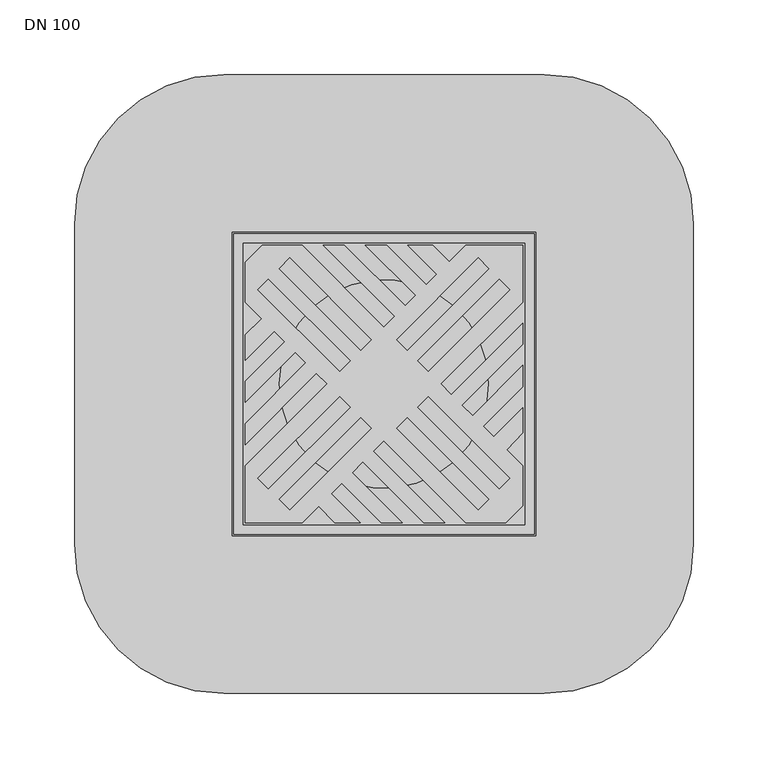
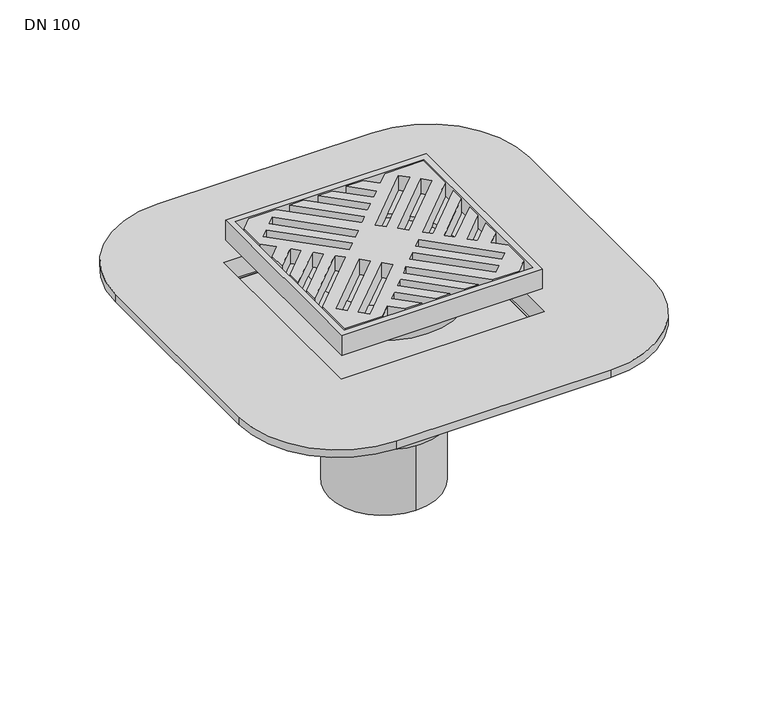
"""IFC4 building model written with IfcOpenShell, lengths in millimetres: sanitary terminal geometry, PF_GEN_UN_parkdeck gully Passavant_ACO : DN 100."""

import ifcopenshell
import ifcopenshell.guid

model = None  # the IFC model being written
_history = None  # IfcOwnerHistory: only IFC2X3 demands one
_inside = {}  # id of a spatial element -> (the spatial element, [elements in it])
_under = {}  # id of a project, library or spatial element -> (it, [spatial elements below it])
_declared = {}  # id of a project -> (the project, [libraries it declares])
_typed = {}  # id of a type object -> (the type object, [elements of that type])
_made_of = {}  # id of a material, layer set ... -> (it, [elements and type objects made of it])


def new_model(schema):
    """Start an empty IFC model of exactly this schema.

    Asked for "IFC4X3", IfcOpenShell would pick the latest addendum, in which some entities
    have other attributes; the version numbers below select the first issue.
    IFC2X3 requires an IfcOwnerHistory on every rooted entity: one is made here for all.
    """
    global model, _history
    if schema == "IFC4X3":
        model = ifcopenshell.file(schema_version=(4, 3, 0, 0))
    else:
        model = ifcopenshell.file(schema=schema)
    _inside.clear()
    _under.clear()
    _declared.clear()
    _typed.clear()
    _made_of.clear()
    _history = None
    if model.schema == "IFC2X3":
        org = make("IfcOrganization", Name="unknown")
        user = make(
            "IfcPersonAndOrganization",
            ThePerson=make("IfcPerson", FamilyName="unknown"),
            TheOrganization=org,
        )
        app = make(
            "IfcApplication",
            ApplicationDeveloper=org,
            Version="unknown",
            ApplicationFullName="unknown",
            ApplicationIdentifier="unknown",
        )
        _history = make(
            "IfcOwnerHistory",
            OwningUser=user,
            OwningApplication=app,
            ChangeAction="ADDED",
            CreationDate=0,
        )
    return model


def make(cls, **values):
    """One entity of the class cls with the attributes given. An attribute that is None is left unset."""
    return model.create_entity(
        cls, **{name: value for name, value in values.items() if value is not None}
    )


def rooted(cls, **values):
    """An entity with a GlobalId (a new one), such as an element, a storey or a relation."""
    return make(cls, GlobalId=ifcopenshell.guid.new(), OwnerHistory=_history, **values)


def si_unit(unit_type, name, prefix=None):
    """IfcSIUnit, for example si_unit("LENGTHUNIT", "METRE", prefix="MILLI")."""
    return make("IfcSIUnit", UnitType=unit_type, Prefix=prefix, Name=name)


def assignment(units):
    """IfcUnitAssignment: the units of a project."""
    return None if units is None else make("IfcUnitAssignment", Units=units)


def point(xyz):
    """IfcCartesianPoint."""
    return None if xyz is None else make("IfcCartesianPoint", Coordinates=xyz)


def direction(xyz):
    """IfcDirection."""
    return None if xyz is None else make("IfcDirection", DirectionRatios=xyz)


def frame(location, z_axis=None, x_axis=None):
    """IfcAxis2Placement3D, a coordinate frame: its origin and axes. An axis left out is left unset."""
    return make(
        "IfcAxis2Placement3D",
        Location=point(location),
        Axis=direction(z_axis),
        RefDirection=direction(x_axis),
    )


def origin():
    """The frame at (0, 0, 0) with its axes left unset."""
    return frame((0.0, 0.0, 0.0))


def place(relative_to, where):
    """IfcLocalPlacement: puts the frame where relative to a parent placement (None: the world)."""
    return make(
        "IfcLocalPlacement", PlacementRelTo=relative_to, RelativePlacement=where
    )


def context(
    kind, dimensions, precision=None, world=None, true_north=None, identifier=None
):
    """IfcGeometricRepresentationContext, for example the 3D "Model" context."""
    return make(
        "IfcGeometricRepresentationContext",
        ContextIdentifier=identifier,
        ContextType=kind,
        CoordinateSpaceDimension=dimensions,
        Precision=precision,
        WorldCoordinateSystem=world,
        TrueNorth=true_north,
    )


def project(units=None, contexts=None):
    """IfcProject with its units and contexts."""
    return rooted(
        "IfcProject",
        Name="project",
        RepresentationContexts=contexts,
        UnitsInContext=assignment(units),
    )


def spatial(cls, under=None, at=None, **own):
    """A site, building, storey or space (cls), placed at a placement, below another one or the project."""
    s = rooted(cls, ObjectPlacement=at, **own)
    if under is not None:
        _under.setdefault(under.id(), (under, []))[1].append(s)
    return s


def polyline(points):
    """IfcPolyline through the points."""
    return make("IfcPolyline", Points=[point(p) for p in points])


def circle_curve(where, radius):
    """IfcCircle in the frame where."""
    return make("IfcCircle", Position=where, Radius=radius)


def outline(outer, holes=None, kind="AREA"):
    """IfcArbitraryClosedProfileDef: a profile drawn as a closed curve; with holes, ...WithVoids."""
    if holes is None:
        return make("IfcArbitraryClosedProfileDef", ProfileType=kind, OuterCurve=outer)
    return make(
        "IfcArbitraryProfileDefWithVoids",
        ProfileType=kind,
        OuterCurve=outer,
        InnerCurves=holes,
    )


def extrude(swept, where, along, depth):
    """IfcExtrudedAreaSolid: the profile swept, set in the frame where, extruded along a direction by depth."""
    return make(
        "IfcExtrudedAreaSolid",
        SweptArea=swept,
        Position=where,
        ExtrudedDirection=direction(along),
        Depth=depth,
    )


def faces_of(points, faces, orient=None, outer=None):
    """IfcFace entities. A face is a list of loops; a loop is a list of indices into points, from 0.

    orient and outer hold one flag for each loop. By default every Orientation is true, the
    first loop of a face is its IfcFaceOuterBound and the others are IfcFaceBound.
    """
    made = []
    for i, loops in enumerate(faces):
        bounds = []
        for j, loop in enumerate(loops):
            is_outer = j == 0 if outer is None else outer[i][j]
            bounds.append(
                make(
                    "IfcFaceOuterBound" if is_outer else "IfcFaceBound",
                    Bound=make("IfcPolyLoop", Polygon=[points[k] for k in loop]),
                    Orientation=True if orient is None else orient[i][j],
                )
            )
        made.append(make("IfcFace", Bounds=bounds))
    return made


def faceted_brep(points, faces, orient=None, outer=None, voids=None):
    """IfcFacetedBrep: a solid bounded by flat faces; with voids (closed shells), ...WithVoids."""
    shared = [point(p) for p in points]
    hull = make("IfcClosedShell", CfsFaces=faces_of(shared, faces, orient, outer))
    if voids is None:
        return make("IfcFacetedBrep", Outer=hull)
    return make(
        "IfcFacetedBrepWithVoids",
        Outer=hull,
        Voids=[
            make(cls, CfsFaces=faces_of(shared, fs, o, b)) for cls, fs, o, b in voids
        ],
    )


def shape(context_of_items, identifier, shape_type, items):
    """IfcShapeRepresentation: the items that make up one representation, for example the "Body"."""
    return make(
        "IfcShapeRepresentation",
        ContextOfItems=context_of_items,
        RepresentationIdentifier=identifier,
        RepresentationType=shape_type,
        Items=items,
    )


def source(mapping_origin, context_of_items, identifier, shape_type, items):
    """IfcRepresentationMap: a shape defined once, which mapped items show again and again."""
    return make(
        "IfcRepresentationMap",
        MappingOrigin=mapping_origin,
        MappedRepresentation=shape(context_of_items, identifier, shape_type, items),
    )


def transform(
    local_origin,
    x_axis=None,
    y_axis=None,
    z_axis=None,
    scale=None,
    scale2=None,
    scale3=None,
    uniform=True,
):
    """IfcCartesianTransformationOperator3D, or its non-uniform kind. x_axis, y_axis, z_axis: its Axis1, 2, 3."""
    if uniform:
        return make(
            "IfcCartesianTransformationOperator3D",
            Axis1=direction(x_axis),
            Axis2=direction(y_axis),
            LocalOrigin=point(local_origin),
            Scale=scale,
            Axis3=direction(z_axis),
        )
    return make(
        "IfcCartesianTransformationOperator3DnonUniform",
        Axis1=direction(x_axis),
        Axis2=direction(y_axis),
        LocalOrigin=point(local_origin),
        Scale=scale,
        Axis3=direction(z_axis),
        Scale2=scale2,
        Scale3=scale3,
    )


def mapped(mapping_source, mapping_target):
    """IfcMappedItem: shows the shape of a source again, moved by a transform."""
    return make(
        "IfcMappedItem", MappingSource=mapping_source, MappingTarget=mapping_target
    )


def made_of(thing, what):
    """Note that an element or type object is made of a material, layer set ...; save() writes the relation."""
    if what is not None:
        _made_of.setdefault(what.id(), (what, []))[1].append(thing)
    return thing


def element(
    cls,
    number,
    at=None,
    inside=None,
    cuts=None,
    type_object=None,
    material=None,
    context=None,
    identifier="Body",
    shape_type=None,
    held_by="IfcProductDefinitionShape",
    body=None,
    shapes=None,
    **own,
):
    """One element of the class cls, such as IfcWall. Its Tag is "e" and its number.

    at: its placement. inside: the storey or other place that contains it. cuts: it is an
    opening in that element (IfcRelVoidsElement). A single representation is given by context,
    identifier, shape_type and body (its items); several are given by shapes. held_by: the class
    of the entity that holds the representations. save() writes the other relations.
    """
    e = rooted(cls, Tag="e%d" % number, ObjectPlacement=at, **own)
    if body is not None:
        shapes = [shape(context, identifier, shape_type, body)]
    if shapes is not None:
        e.Representation = make(held_by, Representations=shapes)
    if inside is not None:
        _inside.setdefault(inside.id(), (inside, []))[1].append(e)
    if cuts is not None:
        rooted(
            "IfcRelVoidsElement", RelatingBuildingElement=cuts, RelatedOpeningElement=e
        )
    if type_object is not None:
        _typed.setdefault(type_object.id(), (type_object, []))[1].append(e)
    return made_of(e, material)


def aggregate(whole, parts):
    """IfcRelAggregates: a whole, such as a stair, and the parts it consists of."""
    return rooted("IfcRelAggregates", RelatingObject=whole, RelatedObjects=parts)


def save(model, path):
    """Write the relations noted so far, then the file.

    IfcRelAggregates (storeys below a building ...), IfcRelContainedInSpatialStructure (elements
    in a storey), IfcRelDefinesByType, IfcRelAssociatesMaterial and IfcRelDeclares: one each for
    every whole, place, type object, material and project.
    """
    for whole, parts in _under.values():
        aggregate(whole, parts)
    for where, things in _inside.values():
        rooted(
            "IfcRelContainedInSpatialStructure",
            RelatedElements=things,
            RelatingStructure=where,
        )
    for kind, things in _typed.values():
        rooted("IfcRelDefinesByType", RelatedObjects=things, RelatingType=kind)
    for what, things in _made_of.values():
        rooted("IfcRelAssociatesMaterial", RelatedObjects=things, RelatingMaterial=what)
    for by, libraries in _declared.values():
        rooted("IfcRelDeclares", RelatingContext=by, RelatedDefinitions=libraries)
    model.write(path)


def plane_surface(at):
    """IfcPlane: the flat surface through the origin of the frame at, square to its z axis."""
    return make("IfcPlane", Position=at)


def cylinder_surface(at, radius):
    """IfcCylindricalSurface: all points at the distance radius from the z axis of the frame at."""
    return make("IfcCylindricalSurface", Position=at, Radius=radius)


def revolved_surface(curve, axis_point, axis_direction):
    """IfcSurfaceOfRevolution: the curve turned about the line through axis_point along axis_direction."""
    return make(
        "IfcSurfaceOfRevolution",
        SweptCurve=make("IfcArbitraryOpenProfileDef", ProfileType="CURVE", Curve=curve),
        AxisPosition=make("IfcAxis1Placement", Location=point(axis_point), Axis=direction(axis_direction)),
    )


def advanced_brep(points, edges, surfaces, faces):
    """IfcAdvancedBrep: a solid bounded by faces that lie on surfaces and meet in shared edges.

    An edge is (start, end): straight between two places in points (the first is 0);
    or (start, end, curve); or (start, end, curve, False) where it runs against its curve.
    A face is (place in surfaces, loops), or (place, loops, False) where it looks against
    its surface's normal. A loop lists edges by number (the first is 1), with a minus sign
    where the edge is run from its end to its start. The first loop is the outer one.
    """
    corners = [point(p) for p in points]
    vertices = [make("IfcVertexPoint", VertexGeometry=c) for c in corners]
    made = []
    for start, end, *more in edges:
        made.append(
            make(
                "IfcEdgeCurve",
                EdgeStart=vertices[start],
                EdgeEnd=vertices[end],
                EdgeGeometry=more[0] if more else make("IfcPolyline", Points=[corners[start], corners[end]]),
                SameSense=more[1] if len(more) > 1 else True,
            )
        )
    hull = []
    for where, loops, *sense in faces:
        bounds = []
        for j, loop in enumerate(loops):
            ring = [make("IfcOrientedEdge", EdgeElement=made[abs(k) - 1], Orientation=k > 0) for k in loop]
            bounds.append(
                make(
                    "IfcFaceOuterBound" if j == 0 else "IfcFaceBound",
                    Bound=make("IfcEdgeLoop", EdgeList=ring),
                    Orientation=True,
                )
            )
        hull.append(make("IfcAdvancedFace", Bounds=bounds, FaceSurface=surfaces[where], SameSense=sense[0] if sense else True))
    return make("IfcAdvancedBrep", Outer=make("IfcClosedShell", CfsFaces=hull))


def dn_100_48bf5f62(model_context):
    return source(origin(), model_context, "Body", "SolidModel", [
        faceted_brep([(84.95, 84.95, -21.0), (-84.95, 84.95, -21.0), (-84.95, -84.95, -21.0), (84.95, -84.95, -21.0), (78.7, 78.7, -29.0), (78.7, -78.7, -29.0), (-78.7, -78.7, -29.0), (-78.7, 78.7, -29.0)], [[[0, 1, 2, 3]], [[4, 5, 6, 7]], [[4, 7, 1, 0]], [[7, 6, 2, 1]], [[6, 5, 3, 2]], [[5, 4, 0, 3]]]),
        advanced_brep(
        [(-75.1, 0.0, -49.0), (75.1, 0.0, -49.0), (-75.1, 0.0, -29.0), (75.1, 0.0, -29.0)],
        [
            (0, 1, circle_curve(frame((0.0, 0.0, -49.0), z_axis=(0.0, 0.0, -1.0), x_axis=(1.0, 0.0, 0.0)), 75.1)),
            (1, 0, circle_curve(frame((0.0, 0.0, -49.0), z_axis=(0.0, 0.0, -1.0), x_axis=(1.0, 0.0, 0.0)), 75.1)),
            (2, 3, circle_curve(frame((0.0, 0.0, -29.0), z_axis=(0.0, 0.0, 1.0), x_axis=(1.0, 0.0, 0.0)), 75.1)),
            (3, 2, circle_curve(frame((0.0, 0.0, -29.0), z_axis=(0.0, 0.0, 1.0), x_axis=(1.0, 0.0, 0.0)), 75.1)),
            (1, 3),
            (2, 0),
        ],
        [
            plane_surface(frame((75.1, 0.0, -49.0), z_axis=(0.0, 0.0, -1.0), x_axis=(0.0, -1.0, 0.0))),
            plane_surface(frame((75.1, 0.0, -29.0), z_axis=(0.0, 0.0, 1.0), x_axis=(0.0, 1.0, 0.0))),
            cylinder_surface(frame((0.0, 0.0, -49.0), z_axis=(0.0, 0.0, 1.0), x_axis=(1.0, 0.0, 0.0)), 75.1),
        ],
        [
            (0, [[1, 2]]),
            (1, [[3, 4]]),
            (2, [[-2, 5, -3, 6]]),
            (2, [[-1, -6, -4, -5]]),
        ],
    ),
        advanced_brep(
        [(100.75, 100.75, -21.0), (100.75, -100.75, -21.0), (-100.75, -100.75, -21.0), (-100.75, 100.75, -21.0), (-70.1, 0.0, -21.0), (70.1, 0.0, -21.0), (94.5, -94.5, -16.0), (94.5, 94.5, -16.0), (-94.5, 94.5, -16.0), (-94.5, -94.5, -16.0), (-70.1, 0.0, -16.0), (70.1, 0.0, -16.0), (100.75, 100.75, 0.0), (-100.75, 100.75, 0.0), (-100.75, -100.75, 0.0), (100.75, -100.75, 0.0), (94.5, 94.5, 0.0), (94.5, -94.5, 0.0), (-94.5, -94.5, 0.0), (-94.5, 94.5, 0.0)],
        [
            (0, 1),
            (1, 2),
            (2, 3),
            (3, 0),
            (4, 5, circle_curve(frame((0.0, 0.0, -21.0), z_axis=(0.0, 0.0, 1.0), x_axis=(1.0, 0.0, 0.0)), 70.1)),
            (5, 4, circle_curve(frame((0.0, 0.0, -21.0), z_axis=(0.0, 0.0, 1.0), x_axis=(1.0, 0.0, 0.0)), 70.1)),
            (6, 7),
            (7, 8),
            (8, 9),
            (9, 6),
            (10, 11, circle_curve(frame((0.0, 0.0, -16.0), z_axis=(0.0, 0.0, -1.0), x_axis=(1.0, 0.0, 0.0)), 70.1)),
            (11, 10, circle_curve(frame((0.0, 0.0, -16.0), z_axis=(0.0, 0.0, -1.0), x_axis=(1.0, 0.0, 0.0)), 70.1)),
            (5, 11),
            (10, 4),
            (12, 13),
            (13, 14),
            (14, 15),
            (15, 12),
            (16, 17),
            (17, 18),
            (18, 19),
            (19, 16),
            (3, 13),
            (12, 0),
            (2, 14),
            (1, 15),
            (16, 7),
            (6, 17),
            (9, 18),
            (8, 19),
        ],
        [
            plane_surface(frame((-94.5, 94.5, -21.0), z_axis=(0.0, 0.0, -1.0), x_axis=(1.0, 0.0, 0.0))),
            plane_surface(frame((-94.5, 94.5, -16.0), z_axis=(0.0, 0.0, 1.0), x_axis=(-1.0, 0.0, 0.0))),
            revolved_surface(polyline([(70.1, 0.0, -21.0), (70.1, 0.0, -16.0)]), (0.0, 0.0, -29.0), (0.0, 0.0, -1.0)),
            plane_surface(frame((-100.75, 100.75, 0.0), z_axis=(0.0, 0.0, 1.0), x_axis=(-1.0, 0.0, 0.0))),
            plane_surface(frame((100.75, 100.75, 0.0), z_axis=(0.0, 1.0, 0.0), x_axis=(0.0, 0.0, -1.0))),
            plane_surface(frame((-100.75, 100.75, 0.0), z_axis=(-1.0, 0.0, 0.0), x_axis=(0.0, 0.0, -1.0))),
            plane_surface(frame((-100.75, -100.75, 0.0), z_axis=(0.0, -1.0, 0.0), x_axis=(0.0, 0.0, -1.0))),
            plane_surface(frame((100.75, -100.75, 0.0), z_axis=(1.0, 0.0, 0.0), x_axis=(0.0, 0.0, -1.0))),
            plane_surface(frame((94.5, 94.5, 0.0), z_axis=(-1.0, 0.0, 0.0), x_axis=(0.0, 0.0, -1.0))),
            plane_surface(frame((94.5, -94.5, 0.0), z_axis=(0.0, 1.0, 0.0), x_axis=(0.0, 0.0, -1.0))),
            plane_surface(frame((-94.5, -94.5, 0.0), z_axis=(1.0, 0.0, 0.0), x_axis=(0.0, 0.0, -1.0))),
            plane_surface(frame((-94.5, 94.5, 0.0), z_axis=(0.0, -1.0, 0.0), x_axis=(0.0, 0.0, -1.0))),
        ],
        [
            (0, [[1, 2, 3, 4], [5, 6]]),
            (1, [[7, 8, 9, 10], [11, 12]]),
            (2, [[-6, 13, -11, 14]]),
            (2, [[-5, -14, -12, -13]]),
            (3, [[15, 16, 17, 18], [19, 20, 21, 22]]),
            (4, [[-4, 23, -15, 24]]),
            (5, [[-3, 25, -16, -23]]),
            (6, [[-2, 26, -17, -25]]),
            (7, [[-1, -24, -18, -26]]),
            (8, [[-19, 27, -7, 28]]),
            (9, [[-20, -28, -10, 29]]),
            (10, [[-21, -29, -9, 30]]),
            (11, [[-22, -30, -8, -27]]),
        ],
    ),
        extrude(outline(polyline([(-93.0166638, -40.6740982), (-93.0166638, -26.5319626), (-52.3425656, 14.1421356), (-59.4136335, 21.2132034), (-93.0166638, -12.3898269), (-93.0166638, 1.7523087), (-66.4847013, 28.2842712), (-73.5557691, 35.3553391), (-93.0166638, 15.8944443), (-93.0166638, 32.8650071), (-82.0410505, 43.8406204), (-93.0166638, 54.8162338), (-93.0166638, 81.7029553), (-81.7029553, 93.0166638), (-54.8328977, 93.0166638), (0.0, 38.1837662), (7.0710678, 45.254834), (-40.690762, 93.0166638), (-26.5486264, 93.0166638), (14.1421356, 52.3259018), (21.2132034, 59.3969696), (-12.3898269, 93.0), (1.7523087, 93.0), (28.2842712, 66.4680374), (35.3553391, 73.5391052), (15.8944443, 93.0), (32.8650071, 93.0), (43.8406204, 82.0243866), (54.8162338, 93.0), (93.0, 93.0), (93.0, 54.8162338), (38.1837662, 0.0), (45.254834, -7.0710678), (93.0, 40.6740982), (93.0, 26.5319626), (52.3259018, -14.1421356), (59.3969696, -21.2132034), (93.0, 12.3898269), (93.0, -1.7523087), (66.4680374, -28.2842712), (73.5391052, -35.3553391), (93.0, -15.8944443), (93.0, -32.6426597), (82.3093846, -44.1256185), (93.0, -54.8353654), (93.0, -81.7029553), (81.6862915, -93.0166638), (54.8162338, -93.0166638), (0.0, -38.20043), (-7.0710678, -45.2714978), (40.6740982, -93.0166638), (26.5319626, -93.0166638), (-14.1587995, -52.3259018), (-21.2298673, -59.3969696), (12.3898269, -93.0166638), (-1.7523087, -93.0166638), (-28.3009351, -66.4680374), (-35.3720029, -73.5391052), (-15.8944443, -93.0166638), (-32.8816709, -93.0166638), (-43.8572843, -82.0410505), (-54.8328977, -93.0166638), (-93.0166638, -93.0166638), (-93.0166638, -54.8162338), (-38.20043, 0.0), (-45.2714978, 7.0710678), (-93.0166638, -40.6740982)]), holes=[polyline([(22.627417, 15.5563492), (29.6984848, 8.4852814), (84.4992604, 63.2860569), (77.4281925, 70.3571247), (22.627417, 15.5563492)]), polyline([(63.2860569, 84.4992604), (8.4852814, 29.6984848), (15.5563492, 22.627417), (70.3571247, 77.4281925), (63.2860569, 84.4992604)]), polyline([(-22.6440808, -15.5538815), (-29.7151487, -8.4852814), (-84.5159242, -63.3051885), (-77.4448564, -70.3737886), (-22.6440808, -15.5538815)]), polyline([(-63.3027208, -84.5159242), (-8.5019452, -29.7151487), (-15.573013, -22.6440808), (-70.3737886, -77.4448564), (-63.3027208, -84.5159242)]), polyline([(-84.5159242, 63.2860569), (-29.7151487, 8.4852814), (-22.6440808, 15.5563492), (-77.4448564, 70.3571247), (-84.5159242, 63.2860569)]), polyline([(-15.573013, 22.627417), (-8.5019452, 29.6984848), (-63.3027208, 84.4992604), (-70.3737886, 77.4281925), (-15.573013, 22.627417)]), polyline([(84.4992604, -63.3051885), (29.6984848, -8.4852814), (22.627417, -15.5538815), (77.4281925, -70.3737886), (84.4992604, -63.3051885)]), polyline([(15.5563492, -22.6440808), (8.4852814, -29.7151487), (63.2860569, -84.5159242), (70.3571247, -77.4448564), (15.5563492, -22.6440808)])]), frame((0.0, 0.0, -16.0), z_axis=(0.0, 0.0, 1.0), x_axis=(1.0, 0.0, 0.0)), (0.0, 0.0, 1.0), 16.0),
        advanced_brep(
        [(91.5703282, -91.5703282, -99.0), (77.4281925, -77.4281925, -99.0), (93.3380951, -93.3380951, -74.0), (75.6604256, -75.6604256, -74.0)],
        [
            (0, 1, circle_curve(frame((84.4992604, -84.4992604, -99.0), z_axis=(0.0, 0.0, -1.0), x_axis=(0.7071067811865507, -0.7071067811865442, 0.0)), 10.0)),
            (1, 0, circle_curve(frame((84.4992604, -84.4992604, -99.0), z_axis=(0.0, 0.0, -1.0), x_axis=(-0.7071067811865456, 0.7071067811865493, 0.0)), 10.0)),
            (2, 3, circle_curve(frame((84.4992604, -84.4992604, -74.0), z_axis=(0.0, 0.0, 1.0), x_axis=(-0.7071067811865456, 0.7071067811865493, 0.0)), 12.5)),
            (3, 2, circle_curve(frame((84.4992604, -84.4992604, -74.0), z_axis=(0.0, 0.0, 1.0), x_axis=(0.7071067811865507, -0.7071067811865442, 0.0)), 12.5)),
            (3, 1),
            (0, 2),
        ],
        [
            plane_surface(frame((84.4992604, -84.4992604, -99.0), z_axis=(0.0, 0.0, -1.0), x_axis=(-0.7071067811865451, -0.7071067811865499, 0.0))),
            plane_surface(frame((84.4992604, -84.4992604, -74.0), z_axis=(0.0, 0.0, 1.0), x_axis=(-0.7071067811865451, -0.7071067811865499, 0.0))),
            revolved_surface(polyline([(91.57032816, -91.57032816, -99.0), (93.3380951, -93.3380951, -74.0)]), (84.4992604, -84.4992604, -199.0), (0.0, 0.0, 1.0)),
            revolved_surface(polyline([(77.42819256, -77.42819256, -99.0), (75.6604256, -75.6604256, -74.0)]), (84.4992604, -84.4992604, -199.0), (0.0, 0.0, 1.0)),
        ],
        [
            (0, [[1, 2]]),
            (1, [[3, 4]]),
            (2, [[-4, 5, -1, 6]]),
            (3, [[-3, -6, -2, -5]]),
        ],
    ),
        advanced_brep(
        [(-91.5703282, -91.5703282, -99.0), (-77.4281925, -77.4281925, -99.0), (-93.3380951, -93.3380951, -74.0), (-75.6604256, -75.6604256, -74.0)],
        [
            (0, 1, circle_curve(frame((-84.4992604, -84.4992604, -99.0), z_axis=(0.0, 0.0, -1.0), x_axis=(-0.7071067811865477, -0.7071067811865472, 0.0)), 10.0)),
            (1, 0, circle_curve(frame((-84.4992604, -84.4992604, -99.0), z_axis=(0.0, 0.0, -1.0), x_axis=(0.7071067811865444, 0.7071067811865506, 0.0)), 10.0)),
            (2, 3, circle_curve(frame((-84.4992604, -84.4992604, -74.0), z_axis=(0.0, 0.0, 1.0), x_axis=(0.7071067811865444, 0.7071067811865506, 0.0)), 12.5)),
            (3, 2, circle_curve(frame((-84.4992604, -84.4992604, -74.0), z_axis=(0.0, 0.0, 1.0), x_axis=(-0.7071067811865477, -0.7071067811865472, 0.0)), 12.5)),
            (3, 1),
            (0, 2),
        ],
        [
            plane_surface(frame((-84.4992604, -84.4992604, -99.0), z_axis=(0.0, 0.0, -1.0), x_axis=(-0.7071067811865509, 0.7071067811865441, 0.0))),
            plane_surface(frame((-84.4992604, -84.4992604, -74.0), z_axis=(0.0, 0.0, 1.0), x_axis=(-0.7071067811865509, 0.7071067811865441, 0.0))),
            revolved_surface(polyline([(-91.57032816, -91.57032816, -99.0), (-93.3380951, -93.3380951, -74.0)]), (-84.4992604, -84.4992604, -199.0), (0.0, 0.0, 1.0)),
            revolved_surface(polyline([(-77.42819256, -77.42819256, -99.0), (-75.6604256, -75.6604256, -74.0)]), (-84.4992604, -84.4992604, -199.0), (0.0, 0.0, 1.0)),
        ],
        [
            (0, [[1, 2]]),
            (1, [[3, 4]]),
            (2, [[-4, 5, -1, 6]]),
            (3, [[-3, -6, -2, -5]]),
        ],
    ),
        advanced_brep(
        [(-91.5703282, 91.5703282, -99.0), (-77.4281925, 77.4281925, -99.0), (-93.3380951, 93.3380951, -74.0), (-75.6604256, 75.6604256, -74.0)],
        [
            (0, 1, circle_curve(frame((-84.4992604, 84.4992604, -99.0), z_axis=(0.0, 0.0, -1.0), x_axis=(-0.7071067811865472, 0.7071067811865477, 0.0)), 10.0)),
            (1, 0, circle_curve(frame((-84.4992604, 84.4992604, -99.0), z_axis=(0.0, 0.0, -1.0), x_axis=(0.7071067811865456, -0.7071067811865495, 0.0)), 10.0)),
            (2, 3, circle_curve(frame((-84.4992604, 84.4992604, -74.0), z_axis=(0.0, 0.0, 1.0), x_axis=(0.7071067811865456, -0.7071067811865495, 0.0)), 12.5)),
            (3, 2, circle_curve(frame((-84.4992604, 84.4992604, -74.0), z_axis=(0.0, 0.0, 1.0), x_axis=(-0.7071067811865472, 0.7071067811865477, 0.0)), 12.5)),
            (3, 1),
            (0, 2),
        ],
        [
            plane_surface(frame((-84.4992604, 84.4992604, -99.0), z_axis=(0.0, 0.0, -1.0), x_axis=(0.7071067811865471, 0.707106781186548, 0.0))),
            plane_surface(frame((-84.4992604, 84.4992604, -74.0), z_axis=(0.0, 0.0, 1.0), x_axis=(0.7071067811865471, 0.707106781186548, 0.0))),
            revolved_surface(polyline([(-91.57032816, 91.57032816, -99.0), (-93.3380951, 93.3380951, -74.0)]), (-84.4992604, 84.4992604, -199.0), (0.0, 0.0, 1.0)),
            revolved_surface(polyline([(-77.42819256, 77.42819256, -99.0), (-75.6604256, 75.6604256, -74.0)]), (-84.4992604, 84.4992604, -199.0), (0.0, 0.0, 1.0)),
        ],
        [
            (0, [[1, 2]]),
            (1, [[3, 4]]),
            (2, [[-4, 5, -1, 6]]),
            (3, [[-3, -6, -2, -5]]),
        ],
    ),
        advanced_brep(
        [(91.5703282, 91.5703282, -99.0), (77.4281925, 77.4281925, -99.0), (93.3380951, 93.3380951, -74.0), (75.6604256, 75.6604256, -74.0)],
        [
            (0, 1, circle_curve(frame((84.4992604, 84.4992604, -99.0), z_axis=(0.0, 0.0, -1.0), x_axis=(0.7071067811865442, 0.7071067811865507, 0.0)), 10.0)),
            (1, 0, circle_curve(frame((84.4992604, 84.4992604, -99.0), z_axis=(0.0, 0.0, -1.0), x_axis=(-0.7071067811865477, -0.7071067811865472, 0.0)), 10.0)),
            (2, 3, circle_curve(frame((84.4992604, 84.4992604, -74.0), z_axis=(0.0, 0.0, 1.0), x_axis=(-0.7071067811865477, -0.7071067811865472, 0.0)), 12.5)),
            (3, 2, circle_curve(frame((84.4992604, 84.4992604, -74.0), z_axis=(0.0, 0.0, 1.0), x_axis=(0.7071067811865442, 0.7071067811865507, 0.0)), 12.5)),
            (3, 1),
            (0, 2),
        ],
        [
            plane_surface(frame((84.4992604, 84.4992604, -99.0), z_axis=(0.0, 0.0, -1.0), x_axis=(0.7071067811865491, -0.707106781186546, 0.0))),
            plane_surface(frame((84.4992604, 84.4992604, -74.0), z_axis=(0.0, 0.0, 1.0), x_axis=(0.7071067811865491, -0.707106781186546, 0.0))),
            revolved_surface(polyline([(91.57032816, 91.57032816, -99.0), (93.3380951, 93.3380951, -74.0)]), (84.4992604, 84.4992604, -199.0), (0.0, 0.0, 1.0)),
            revolved_surface(polyline([(77.42819256, 77.42819256, -99.0), (75.6604256, 75.6604256, -74.0)]), (84.4992604, 84.4992604, -199.0), (0.0, 0.0, 1.0)),
        ],
        [
            (0, [[1, 2]]),
            (1, [[3, 4]]),
            (2, [[-4, 5, -1, 6]]),
            (3, [[-3, -6, -2, -5]]),
        ],
    ),
        advanced_brep(
        [(101.87, -101.87, -66.0), (101.87, 101.87, -66.0), (-101.87, 101.87, -66.0), (-101.87, -101.87, -66.0), (100.0, 100.0, -66.0), (100.0, -100.0, -66.0), (-100.0, -100.0, -66.0), (-100.0, 100.0, -66.0), (107.33, 107.33, -74.0), (107.33, -107.33, -74.0), (-107.33, -107.33, -74.0), (-107.33, 107.33, -74.0), (100.0, 100.0, -74.0), (-100.0, 100.0, -74.0), (-100.0, -100.0, -74.0), (100.0, -100.0, -74.0), (-107.33, 107.33, -53.0), (107.33, 107.33, -53.0), (-107.33, -107.33, -53.0), (107.33, -107.33, -53.0), (101.87, -101.87, -45.0), (101.87, 101.87, -45.0), (-101.87, -101.87, -45.0), (-101.87, 101.87, -45.0), (107.5, 207.5, -45.0), (-107.5, 207.5, -45.0), (-207.5, 107.5, -45.0), (-207.5, -107.5, -45.0), (-107.5, -207.5, -45.0), (107.5, -207.5, -45.0), (207.5, -107.5, -45.0), (207.5, 107.5, -45.0), (107.5, 207.5, -53.0), (207.5, 107.5, -53.0), (207.5, -107.5, -53.0), (107.5, -207.5, -53.0), (-107.5, -207.5, -53.0), (-207.5, -107.5, -53.0), (-207.5, 107.5, -53.0), (-107.5, 207.5, -53.0)],
        [
            (0, 1),
            (1, 2),
            (2, 3),
            (3, 0),
            (4, 5),
            (5, 6),
            (6, 7),
            (7, 4),
            (8, 9),
            (9, 10),
            (10, 11),
            (11, 8),
            (12, 13),
            (13, 14),
            (14, 15),
            (15, 12),
            (4, 12),
            (15, 5),
            (14, 6),
            (13, 7),
            (11, 16),
            (16, 17),
            (17, 8),
            (10, 18),
            (18, 16),
            (9, 19),
            (19, 18),
            (17, 19),
            (0, 20),
            (20, 21),
            (21, 1),
            (3, 22),
            (22, 20),
            (2, 23),
            (23, 22),
            (21, 23),
            (24, 25),
            (25, 26, circle_curve(frame((-107.5, 107.5, -45.0), z_axis=(0.0, 0.0, 1.0), x_axis=(1.0, 0.0, 0.0)), 100.0)),
            (26, 27),
            (27, 28, circle_curve(frame((-107.5, -107.5, -45.0), z_axis=(0.0, 0.0, 1.0), x_axis=(1.0, 0.0, 0.0)), 100.0)),
            (28, 29),
            (29, 30, circle_curve(frame((107.5, -107.5, -45.0), z_axis=(0.0, 0.0, 1.0), x_axis=(1.0, 0.0, 0.0)), 100.0)),
            (30, 31),
            (31, 24, circle_curve(frame((107.5, 107.5, -45.0), z_axis=(0.0, 0.0, 1.0), x_axis=(1.0, 0.0, 0.0)), 100.0)),
            (32, 33, circle_curve(frame((107.5, 107.5, -53.0), z_axis=(0.0, 0.0, -1.0), x_axis=(1.0, 0.0, 0.0)), 100.0)),
            (33, 34),
            (34, 35, circle_curve(frame((107.5, -107.5, -53.0), z_axis=(0.0, 0.0, -1.0), x_axis=(1.0, 0.0, 0.0)), 100.0)),
            (35, 36),
            (36, 37, circle_curve(frame((-107.5, -107.5, -53.0), z_axis=(0.0, 0.0, -1.0), x_axis=(1.0, 0.0, 0.0)), 100.0)),
            (37, 38),
            (38, 39, circle_curve(frame((-107.5, 107.5, -53.0), z_axis=(0.0, 0.0, -1.0), x_axis=(1.0, 0.0, 0.0)), 100.0)),
            (39, 32),
            (24, 32),
            (39, 25),
            (38, 26),
            (37, 27),
            (36, 28),
            (35, 29),
            (34, 30),
            (33, 31),
        ],
        [
            plane_surface(frame((100.0, 100.0, -66.0), z_axis=(0.0, 0.0, 1.0), x_axis=(0.0, -1.0, 0.0))),
            plane_surface(frame((100.0, 100.0, -74.0), z_axis=(0.0, 0.0, -1.0), x_axis=(0.0, 1.0, 0.0))),
            plane_surface(frame((100.0, 100.0, -66.0), z_axis=(-1.0, 0.0, 0.0), x_axis=(0.0, 0.0, -1.0))),
            plane_surface(frame((100.0, -100.0, -66.0), z_axis=(0.0, 1.0, 0.0), x_axis=(0.0, 0.0, -1.0))),
            plane_surface(frame((-100.0, -100.0, -66.0), z_axis=(1.0, 0.0, 0.0), x_axis=(0.0, 0.0, -1.0))),
            plane_surface(frame((-100.0, 100.0, -66.0), z_axis=(0.0, -1.0, 0.0), x_axis=(0.0, 0.0, -1.0))),
            plane_surface(frame((107.33, 107.33, -66.0), z_axis=(0.0, 1.0, 0.0), x_axis=(0.0, 0.0, -1.0))),
            plane_surface(frame((-107.33, 107.33, -66.0), z_axis=(-1.0, 0.0, 0.0), x_axis=(0.0, 0.0, -1.0))),
            plane_surface(frame((-107.33, -107.33, -66.0), z_axis=(0.0, -1.0, 0.0), x_axis=(0.0, 0.0, -1.0))),
            plane_surface(frame((107.33, -107.33, -66.0), z_axis=(1.0, 0.0, 0.0), x_axis=(0.0, 0.0, -1.0))),
            plane_surface(frame((101.87, 101.87, -53.0), z_axis=(-1.0, 0.0, 0.0), x_axis=(0.0, 0.0, -1.0))),
            plane_surface(frame((101.87, -101.87, -53.0), z_axis=(0.0, 1.0, 0.0), x_axis=(0.0, 0.0, -1.0))),
            plane_surface(frame((-101.87, -101.87, -53.0), z_axis=(1.0, 0.0, 0.0), x_axis=(0.0, 0.0, -1.0))),
            plane_surface(frame((-101.87, 101.87, -53.0), z_axis=(0.0, -1.0, 0.0), x_axis=(0.0, 0.0, -1.0))),
            plane_surface(frame((101.87, 101.87, -45.0), z_axis=(0.0, 0.0, 1.0), x_axis=(0.0, -1.0, 0.0))),
            plane_surface(frame((101.87, 101.87, -53.0), z_axis=(0.0, 0.0, -1.0), x_axis=(0.0, 1.0, 0.0))),
            plane_surface(frame((107.5, 207.5, -45.0), z_axis=(0.0, 1.0, 0.0), x_axis=(0.0, 0.0, -1.0))),
            cylinder_surface(frame((-107.5, 107.5, -66.0), z_axis=(0.0, 0.0, 1.0), x_axis=(1.0, 0.0, 0.0)), 100.0),
            plane_surface(frame((-207.5, 107.5, -45.0), z_axis=(-1.0, 0.0, 0.0), x_axis=(0.0, 0.0, -1.0))),
            cylinder_surface(frame((-107.5, -107.5, -66.0), z_axis=(0.0, 0.0, 1.0), x_axis=(1.0, 0.0, 0.0)), 100.0),
            plane_surface(frame((-107.5, -207.5, -45.0), z_axis=(0.0, -1.0, 0.0), x_axis=(0.0, 0.0, -1.0))),
            cylinder_surface(frame((107.5, -107.5, -66.0), z_axis=(0.0, 0.0, 1.0), x_axis=(1.0, 0.0, 0.0)), 100.0),
            plane_surface(frame((207.5, -107.5, -45.0), z_axis=(1.0, 0.0, 0.0), x_axis=(0.0, 0.0, -1.0))),
            cylinder_surface(frame((107.5, 107.5, -66.0), z_axis=(0.0, 0.0, 1.0), x_axis=(1.0, 0.0, 0.0)), 100.0),
        ],
        [
            (0, [[1, 2, 3, 4], [5, 6, 7, 8]]),
            (1, [[9, 10, 11, 12], [13, 14, 15, 16]]),
            (2, [[-5, 17, -16, 18]]),
            (3, [[-6, -18, -15, 19]]),
            (4, [[-7, -19, -14, 20]]),
            (5, [[-8, -20, -13, -17]]),
            (6, [[-12, 21, 22, 23]]),
            (7, [[-11, 24, 25, -21]]),
            (8, [[-10, 26, 27, -24]]),
            (9, [[-9, -23, 28, -26]]),
            (10, [[-1, 29, 30, 31]]),
            (11, [[-29, -4, 32, 33]]),
            (12, [[-32, -3, 34, 35]]),
            (13, [[-31, 36, -34, -2]]),
            (14, [[37, 38, 39, 40, 41, 42, 43, 44], [-30, -33, -35, -36]]),
            (15, [[45, 46, 47, 48, 49, 50, 51, 52], [-22, -25, -27, -28]]),
            (16, [[-37, 53, -52, 54]]),
            (17, [[-38, -54, -51, 55]]),
            (18, [[-39, -55, -50, 56]]),
            (19, [[-40, -56, -49, 57]]),
            (20, [[-41, -57, -48, 58]]),
            (21, [[-42, -58, -47, 59]]),
            (22, [[-43, -59, -46, 60]]),
            (23, [[-44, -60, -45, -53]]),
        ],
    ),
        advanced_brep(
        [(100.0, 100.0, -66.0), (-100.0, 100.0, -66.0), (-100.0, -100.0, -66.0), (100.0, -100.0, -66.0), (100.0, 100.0, -74.0), (100.0, -100.0, -74.0), (-100.0, -100.0, -74.0), (-100.0, 100.0, -74.0), (-82.0, 0.0, -74.0), (82.0, 0.0, -74.0), (-82.0, 0.0, -99.63), (82.0, 0.0, -99.63), (67.2, 0.0, -109.98), (-67.2, 0.0, -109.98), (0.0, 55.0, -248.73), (0.0, -55.0, -248.73), (0.0, -55.0, -173.73), (0.0, 55.0, -173.73), (-62.85, 0.0, -173.73), (62.85, 0.0, -173.73)],
        [
            (0, 1),
            (1, 2),
            (2, 3),
            (3, 0),
            (4, 5),
            (5, 6),
            (6, 7),
            (7, 4),
            (8, 9, circle_curve(frame((0.0, 0.0, -74.0), z_axis=(0.0, 0.0, 1.0), x_axis=(1.0, 0.0, 0.0)), 82.0)),
            (9, 8, circle_curve(frame((0.0, 0.0, -74.0), z_axis=(0.0, 0.0, 1.0), x_axis=(1.0, 0.0, 0.0)), 82.0)),
            (8, 10),
            (10, 11, circle_curve(frame((0.0, 0.0, -99.63), z_axis=(0.0, 0.0, 1.0), x_axis=(1.0, 0.0, 0.0)), 82.0)),
            (11, 9),
            (11, 10, circle_curve(frame((0.0, 0.0, -99.63), z_axis=(0.0, 0.0, 1.0), x_axis=(1.0, 0.0, 0.0)), 82.0)),
            (12, 11),
            (10, 13),
            (13, 12, circle_curve(frame((0.0, 0.0, -109.98), z_axis=(0.0, 0.0, 1.0), x_axis=(-1.0, 0.0, 0.0)), 67.2)),
            (12, 13, circle_curve(frame((0.0, 0.0, -109.98), z_axis=(0.0, 0.0, 1.0), x_axis=(1.0, 0.0, 0.0)), 67.2)),
            (14, 15, circle_curve(frame((0.0, 0.0, -248.73), z_axis=(0.0, 0.0, -1.0), x_axis=(0.0, -1.0, 0.0)), 55.0)),
            (15, 14, circle_curve(frame((0.0, 0.0, -248.73), z_axis=(0.0, 0.0, -1.0), x_axis=(0.0, -1.0, 0.0)), 55.0)),
            (15, 16),
            (16, 17, circle_curve(frame((0.0, 0.0, -173.73), z_axis=(0.0, 0.0, -1.0), x_axis=(0.0, -1.0, 0.0)), 55.0)),
            (17, 14),
            (17, 16, circle_curve(frame((0.0, 0.0, -173.73), z_axis=(0.0, 0.0, -1.0), x_axis=(0.0, -1.0, 0.0)), 55.0)),
            (18, 19, circle_curve(frame((0.0, 0.0, -173.73), z_axis=(0.0, 0.0, -1.0), x_axis=(1.0, 0.0, 0.0)), 62.85)),
            (19, 18, circle_curve(frame((0.0, 0.0, -173.73), z_axis=(0.0, 0.0, -1.0), x_axis=(-1.0, 0.0, 0.0)), 62.85)),
            (19, 12),
            (13, 18),
            (0, 4),
            (7, 1),
            (6, 2),
            (5, 3),
        ],
        [
            plane_surface(frame((-100.0, 100.0, -66.0), z_axis=(0.0, 0.0, 1.0), x_axis=(-1.0, 0.0, 0.0))),
            plane_surface(frame((-100.0, 100.0, -74.0), z_axis=(0.0, 0.0, -1.0), x_axis=(1.0, 0.0, 0.0))),
            cylinder_surface(frame((0.0, 0.0, -99.63), z_axis=(0.0, 0.0, 1.0), x_axis=(1.0, 0.0, 0.0)), 82.0),
            revolved_surface(polyline([(67.20000000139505, 0.0, -109.98), (82.0, 0.0, -99.63)]), (0.0, 0.0, -156.9745946), (0.0, 0.0, 1.0)),
            plane_surface(frame((0.0, -55.0, -248.73), z_axis=(0.0, 0.0, -1.0), x_axis=(-1.0, 0.0, 0.0))),
            cylinder_surface(frame((0.0, 0.0, -248.73), z_axis=(0.0, 0.0, 1.0), x_axis=(0.0, -1.0, 0.0)), 55.0),
            plane_surface(frame((0.0, 0.0, -173.73), z_axis=(0.0, 0.0, -1.0), x_axis=(0.0, -1.0, 0.0))),
            revolved_surface(polyline([(62.84999999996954, 0.0, -173.73000000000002), (67.2, 0.0, -109.98000000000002)]), (0.0, 0.0, -1094.8075862), (0.0, 0.0, 1.0)),
            revolved_surface(polyline([(-62.84999999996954, 0.0, -173.73000000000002), (-67.2, 0.0, -109.98000000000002)]), (0.0, 0.0, -1094.8075862), (0.0, 0.0, 1.0)),
            plane_surface(frame((100.0, 100.0, -66.0), z_axis=(0.0, 1.0, 0.0), x_axis=(0.0, 0.0, -1.0))),
            plane_surface(frame((-100.0, 100.0, -66.0), z_axis=(-1.0, 0.0, 0.0), x_axis=(0.0, 0.0, -1.0))),
            plane_surface(frame((-100.0, -100.0, -66.0), z_axis=(0.0, -1.0, 0.0), x_axis=(0.0, 0.0, -1.0))),
            plane_surface(frame((100.0, -100.0, -66.0), z_axis=(1.0, 0.0, 0.0), x_axis=(0.0, 0.0, -1.0))),
        ],
        [
            (0, [[1, 2, 3, 4]]),
            (1, [[5, 6, 7, 8], [9, 10]]),
            (2, [[11, 12, 13, -9]]),
            (2, [[-11, -10, -13, 14]]),
            (3, [[15, -12, 16, 17]]),
            (3, [[-15, 18, -16, -14]]),
            (4, [[19, 20]]),
            (5, [[-20, 21, 22, 23]]),
            (5, [[-19, -23, 24, -21]]),
            (6, [[25, 26], [-22, -24]]),
            (7, [[-26, 27, -17, 28]]),
            (8, [[-25, -28, -18, -27]]),
            (9, [[-1, 29, -8, 30]]),
            (10, [[-2, -30, -7, 31]]),
            (11, [[-3, -31, -6, 32]]),
            (12, [[-4, -32, -5, -29]]),
        ],
    ),
    ])


if __name__ == "__main__":
    model = new_model("IFC4")
    model_context = context("Model", 3, world=origin())
    ifc_project = project(units=[si_unit("LENGTHUNIT", "METRE", prefix="MILLI")], contexts=[model_context])
    site = spatial("IfcSite", under=ifc_project)
    building = spatial("IfcBuilding", under=site)
    placement = place(None, origin())
    dn_100_shape = dn_100_48bf5f62(model_context)
    element("IfcSanitaryTerminal", 1, ObjectType="PF_GEN_UN_parkdeck gully Passavant_ACO : DN 100", at=placement, inside=building, context=model_context, shape_type="MappedRepresentation", body=[
        mapped(dn_100_shape, transform((0.0, 0.0, 0.0), x_axis=(1.0, 0.0, 0.0), y_axis=(0.0, 1.0, 0.0), z_axis=(0.0, 0.0, 1.0))),
    ])
    save(model, "model.ifc")
